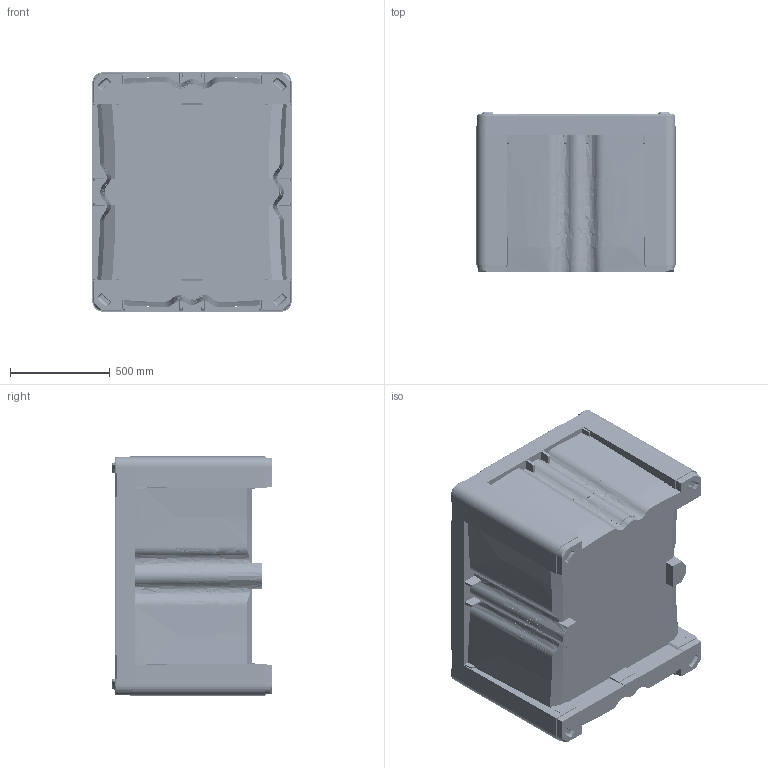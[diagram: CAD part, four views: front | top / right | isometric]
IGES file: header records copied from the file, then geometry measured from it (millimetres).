
Start section: SolidWorks IGES file using analytic representation for surfaces
Global section: file name: C:\ProdVault\Production Data\Hybrid 1012\1110xxxxxxxx 1012-790 Hybrid Block ShortFoot 2way.IGS; native system: SolidWorks 2018; preprocessor: SolidWorks 2018; author: Todd Turner; date: 180824.164447; units: millimetre
Bounding box: 1000 x 802.5 x 1200 mm (x, y, z)
Surface area: 10162873.9 mm2 (no closed solid volume)
Topology: 0 solids, 0 shells, 6203 faces, 103362 edges, 103339 vertices
Faces by surface type: bspline 5713, revolution 490
